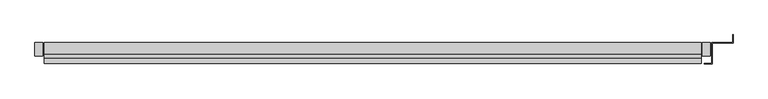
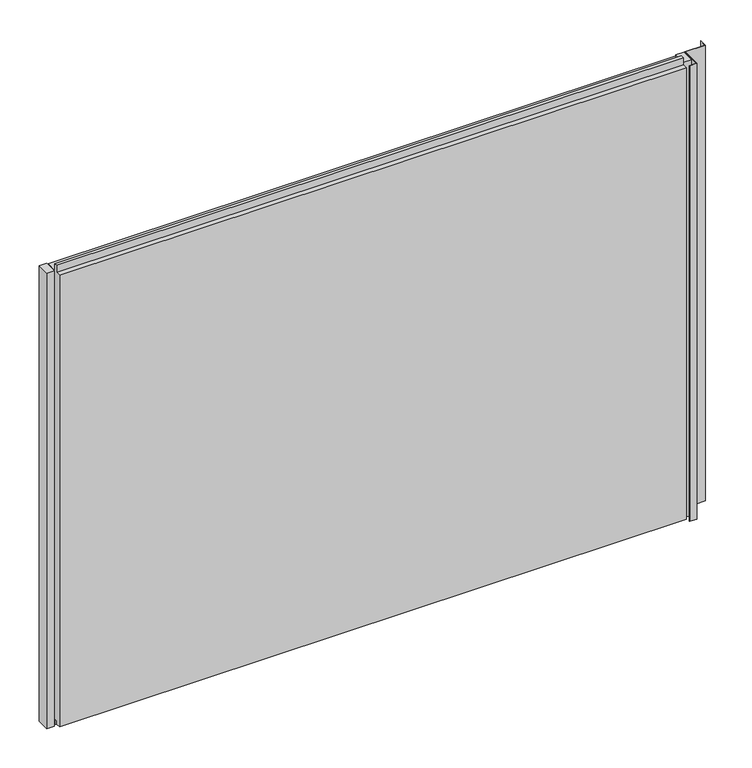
"""IFC4 building model written with IfcOpenShell, lengths in millimetres: plate geometry, Trimo_Qbiss Screen_Normal Panel-HORIZONTAL : HR - FB-F."""

import ifcopenshell
import ifcopenshell.guid

model = None  # the IFC model being written
_history = None  # IfcOwnerHistory: only IFC2X3 demands one
_inside = {}  # id of a spatial element -> (the spatial element, [elements in it])
_under = {}  # id of a project, library or spatial element -> (it, [spatial elements below it])
_declared = {}  # id of a project -> (the project, [libraries it declares])
_typed = {}  # id of a type object -> (the type object, [elements of that type])
_made_of = {}  # id of a material, layer set ... -> (it, [elements and type objects made of it])


def new_model(schema):
    """Start an empty IFC model of exactly this schema.

    Asked for "IFC4X3", IfcOpenShell would pick the latest addendum, in which some entities
    have other attributes; the version numbers below select the first issue.
    IFC2X3 requires an IfcOwnerHistory on every rooted entity: one is made here for all.
    """
    global model, _history
    if schema == "IFC4X3":
        model = ifcopenshell.file(schema_version=(4, 3, 0, 0))
    else:
        model = ifcopenshell.file(schema=schema)
    _inside.clear()
    _under.clear()
    _declared.clear()
    _typed.clear()
    _made_of.clear()
    _history = None
    if model.schema == "IFC2X3":
        org = make("IfcOrganization", Name="unknown")
        user = make(
            "IfcPersonAndOrganization",
            ThePerson=make("IfcPerson", FamilyName="unknown"),
            TheOrganization=org,
        )
        app = make(
            "IfcApplication",
            ApplicationDeveloper=org,
            Version="unknown",
            ApplicationFullName="unknown",
            ApplicationIdentifier="unknown",
        )
        _history = make(
            "IfcOwnerHistory",
            OwningUser=user,
            OwningApplication=app,
            ChangeAction="ADDED",
            CreationDate=0,
        )
    return model


def make(cls, **values):
    """One entity of the class cls with the attributes given. An attribute that is None is left unset."""
    return model.create_entity(
        cls, **{name: value for name, value in values.items() if value is not None}
    )


def rooted(cls, **values):
    """An entity with a GlobalId (a new one), such as an element, a storey or a relation."""
    return make(cls, GlobalId=ifcopenshell.guid.new(), OwnerHistory=_history, **values)


def si_unit(unit_type, name, prefix=None):
    """IfcSIUnit, for example si_unit("LENGTHUNIT", "METRE", prefix="MILLI")."""
    return make("IfcSIUnit", UnitType=unit_type, Prefix=prefix, Name=name)


def assignment(units):
    """IfcUnitAssignment: the units of a project."""
    return None if units is None else make("IfcUnitAssignment", Units=units)


def point(xyz):
    """IfcCartesianPoint."""
    return None if xyz is None else make("IfcCartesianPoint", Coordinates=xyz)


def direction(xyz):
    """IfcDirection."""
    return None if xyz is None else make("IfcDirection", DirectionRatios=xyz)


def frame(location, z_axis=None, x_axis=None):
    """IfcAxis2Placement3D, a coordinate frame: its origin and axes. An axis left out is left unset."""
    return make(
        "IfcAxis2Placement3D",
        Location=point(location),
        Axis=direction(z_axis),
        RefDirection=direction(x_axis),
    )


def origin():
    """The frame at (0, 0, 0) with its axes left unset."""
    return frame((0.0, 0.0, 0.0))


def place(relative_to, where):
    """IfcLocalPlacement: puts the frame where relative to a parent placement (None: the world)."""
    return make(
        "IfcLocalPlacement", PlacementRelTo=relative_to, RelativePlacement=where
    )


def context(
    kind, dimensions, precision=None, world=None, true_north=None, identifier=None
):
    """IfcGeometricRepresentationContext, for example the 3D "Model" context."""
    return make(
        "IfcGeometricRepresentationContext",
        ContextIdentifier=identifier,
        ContextType=kind,
        CoordinateSpaceDimension=dimensions,
        Precision=precision,
        WorldCoordinateSystem=world,
        TrueNorth=true_north,
    )


def project(units=None, contexts=None):
    """IfcProject with its units and contexts."""
    return rooted(
        "IfcProject",
        Name="project",
        RepresentationContexts=contexts,
        UnitsInContext=assignment(units),
    )


def spatial(cls, under=None, at=None, **own):
    """A site, building, storey or space (cls), placed at a placement, below another one or the project."""
    s = rooted(cls, ObjectPlacement=at, **own)
    if under is not None:
        _under.setdefault(under.id(), (under, []))[1].append(s)
    return s


def polyline(points):
    """IfcPolyline through the points."""
    return make("IfcPolyline", Points=[point(p) for p in points])


def outline(outer, holes=None, kind="AREA"):
    """IfcArbitraryClosedProfileDef: a profile drawn as a closed curve; with holes, ...WithVoids."""
    if holes is None:
        return make("IfcArbitraryClosedProfileDef", ProfileType=kind, OuterCurve=outer)
    return make(
        "IfcArbitraryProfileDefWithVoids",
        ProfileType=kind,
        OuterCurve=outer,
        InnerCurves=holes,
    )


def extrude(swept, where, along, depth):
    """IfcExtrudedAreaSolid: the profile swept, set in the frame where, extruded along a direction by depth."""
    return make(
        "IfcExtrudedAreaSolid",
        SweptArea=swept,
        Position=where,
        ExtrudedDirection=direction(along),
        Depth=depth,
    )


def shape(context_of_items, identifier, shape_type, items):
    """IfcShapeRepresentation: the items that make up one representation, for example the "Body"."""
    return make(
        "IfcShapeRepresentation",
        ContextOfItems=context_of_items,
        RepresentationIdentifier=identifier,
        RepresentationType=shape_type,
        Items=items,
    )


def source(mapping_origin, context_of_items, identifier, shape_type, items):
    """IfcRepresentationMap: a shape defined once, which mapped items show again and again."""
    return make(
        "IfcRepresentationMap",
        MappingOrigin=mapping_origin,
        MappedRepresentation=shape(context_of_items, identifier, shape_type, items),
    )


def transform(
    local_origin,
    x_axis=None,
    y_axis=None,
    z_axis=None,
    scale=None,
    scale2=None,
    scale3=None,
    uniform=True,
):
    """IfcCartesianTransformationOperator3D, or its non-uniform kind. x_axis, y_axis, z_axis: its Axis1, 2, 3."""
    if uniform:
        return make(
            "IfcCartesianTransformationOperator3D",
            Axis1=direction(x_axis),
            Axis2=direction(y_axis),
            LocalOrigin=point(local_origin),
            Scale=scale,
            Axis3=direction(z_axis),
        )
    return make(
        "IfcCartesianTransformationOperator3DnonUniform",
        Axis1=direction(x_axis),
        Axis2=direction(y_axis),
        LocalOrigin=point(local_origin),
        Scale=scale,
        Axis3=direction(z_axis),
        Scale2=scale2,
        Scale3=scale3,
    )


def mapped(mapping_source, mapping_target):
    """IfcMappedItem: shows the shape of a source again, moved by a transform."""
    return make(
        "IfcMappedItem", MappingSource=mapping_source, MappingTarget=mapping_target
    )


def made_of(thing, what):
    """Note that an element or type object is made of a material, layer set ...; save() writes the relation."""
    if what is not None:
        _made_of.setdefault(what.id(), (what, []))[1].append(thing)
    return thing


def element(
    cls,
    number,
    at=None,
    inside=None,
    cuts=None,
    type_object=None,
    material=None,
    context=None,
    identifier="Body",
    shape_type=None,
    held_by="IfcProductDefinitionShape",
    body=None,
    shapes=None,
    **own,
):
    """One element of the class cls, such as IfcWall. Its Tag is "e" and its number.

    at: its placement. inside: the storey or other place that contains it. cuts: it is an
    opening in that element (IfcRelVoidsElement). A single representation is given by context,
    identifier, shape_type and body (its items); several are given by shapes. held_by: the class
    of the entity that holds the representations. save() writes the other relations.
    """
    e = rooted(cls, Tag="e%d" % number, ObjectPlacement=at, **own)
    if body is not None:
        shapes = [shape(context, identifier, shape_type, body)]
    if shapes is not None:
        e.Representation = make(held_by, Representations=shapes)
    if inside is not None:
        _inside.setdefault(inside.id(), (inside, []))[1].append(e)
    if cuts is not None:
        rooted(
            "IfcRelVoidsElement", RelatingBuildingElement=cuts, RelatedOpeningElement=e
        )
    if type_object is not None:
        _typed.setdefault(type_object.id(), (type_object, []))[1].append(e)
    return made_of(e, material)


def aggregate(whole, parts):
    """IfcRelAggregates: a whole, such as a stair, and the parts it consists of."""
    return rooted("IfcRelAggregates", RelatingObject=whole, RelatedObjects=parts)


def save(model, path):
    """Write the relations noted so far, then the file.

    IfcRelAggregates (storeys below a building ...), IfcRelContainedInSpatialStructure (elements
    in a storey), IfcRelDefinesByType, IfcRelAssociatesMaterial and IfcRelDeclares: one each for
    every whole, place, type object, material and project.
    """
    for whole, parts in _under.values():
        aggregate(whole, parts)
    for where, things in _inside.values():
        rooted(
            "IfcRelContainedInSpatialStructure",
            RelatedElements=things,
            RelatingStructure=where,
        )
    for kind, things in _typed.values():
        rooted("IfcRelDefinesByType", RelatedObjects=things, RelatingType=kind)
    for what, things in _made_of.values():
        rooted("IfcRelAssociatesMaterial", RelatedObjects=things, RelatingMaterial=what)
    for by, libraries in _declared.values():
        rooted("IfcRelDeclares", RelatingContext=by, RelatedDefinitions=libraries)
    model.write(path)


def plate_005167d4(model_context):
    return source(origin(), model_context, "Body", "SweptSolid", [
        extrude(outline(polyline([(750.0, 50.0), (750.0, 100.0), (800.0, 100.0), (800.0, 118.5), (800.8, 118.5), (800.8, 99.2), (750.8, 99.2), (750.8, 49.2), (732.5, 49.2), (732.5, 50.0), (750.0, 50.0)])), frame((0.0, 0.0, -1.0), z_axis=(0.0, 0.0, 1.0), x_axis=(1.0, 0.0, 0.0)), (0.0, 0.0, 1.0), 1200.0),
        extrude(outline(polyline([(-840.5, 67.8978162), (-859.5, 67.8978162), (-859.5, 100.0), (-840.5, 100.0), (-840.5, 67.8978162)])), frame((0.0, 0.0, -1.0), z_axis=(0.0, 0.0, 1.0), x_axis=(1.0, 0.0, 0.0)), (0.0, 0.0, 1.0), 1200.0),
        extrude(outline(polyline([(747.0, 67.8978162), (728.0, 67.8978162), (728.0, 100.0), (747.0, 100.0), (747.0, 67.8978162)])), frame((0.0, 0.0, -1.0), z_axis=(0.0, 0.0, 1.0), x_axis=(1.0, 0.0, 0.0)), (0.0, 0.0, 1.0), 1200.0),
        extrude(outline(polyline([(71.0, 1196.0), (100.0, 1196.0), (100.0, 0.0), (72.0, 0.0), (72.0, 15.5), (62.0, 15.5), (62.0, 7.0), (50.0, 7.0), (50.0, 1196.0), (63.0, 1196.0), (63.0, 1214.5), (71.0, 1214.5), (71.0, 1196.0)])), frame((-837.5, 0.0, 0.0), z_axis=(1.0, 0.0, 0.0), x_axis=(0.0, 1.0, 0.0)), (0.0, 0.0, 1.0), 1562.5),
    ])


if __name__ == "__main__":
    model = new_model("IFC4")
    model_context = context("Model", 3, world=origin())
    ifc_project = project(units=[si_unit("LENGTHUNIT", "METRE", prefix="MILLI")], contexts=[model_context])
    site = spatial("IfcSite", under=ifc_project)
    building = spatial("IfcBuilding", under=site)
    placement = place(None, origin())
    plate_shape = plate_005167d4(model_context)
    element("IfcPlate", 1, ObjectType="Trimo_Qbiss Screen_Normal Panel-HORIZONTAL : HR - FB-F", at=placement, inside=building, context=model_context, shape_type="MappedRepresentation", body=[
        mapped(plate_shape, transform((0.0, 0.0, 0.0), x_axis=(1.0, 0.0, 0.0), y_axis=(0.0, 1.0, 0.0), z_axis=(0.0, 0.0, 1.0))),
    ])
    save(model, "model.ifc")
